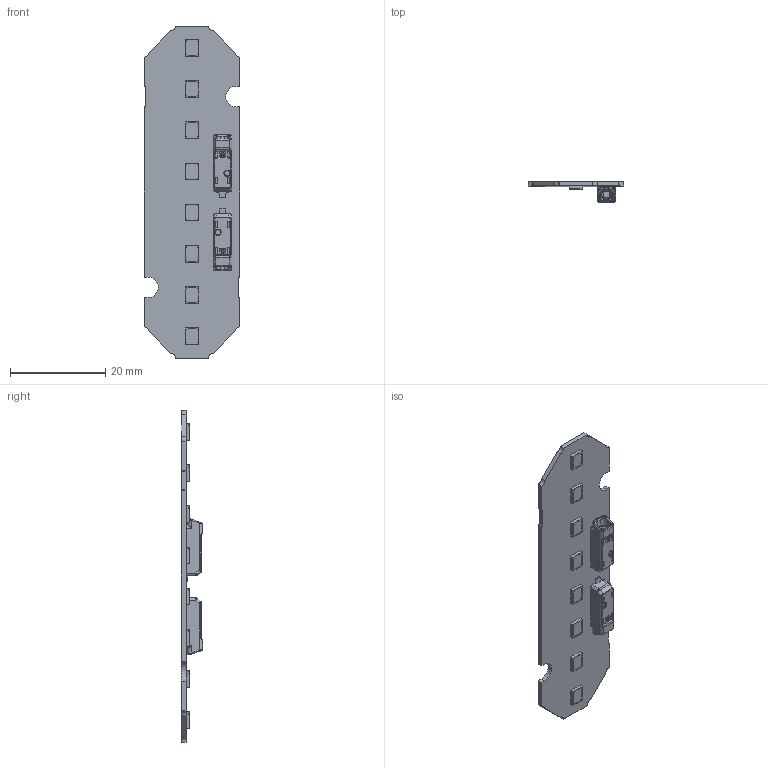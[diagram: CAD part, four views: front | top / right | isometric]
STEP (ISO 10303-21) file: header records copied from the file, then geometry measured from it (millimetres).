
FILE_DESCRIPTION(/* description */ ('Unknown'),/* implementation_level */ '2;1');
FILE_NAME(/* name */ 'LinLED 70x20mm 275lm 2C 6V sh-000 2022-04-06',/* time_stamp */ '2022-04-06T08:33:15+02:00',/* author */ ('Unknown'),/* organization */ ('Unknown'),/* preprocessor_version */ 'ST-DEVELOPER v16.7',/* originating_system */ 'Solid Edge',/* authorisation */ 'Unknown');
FILE_SCHEMA (('AUTOMOTIVE_DESIGN {1 0 10303 214 3 1 1}'));
Length unit declared in the file: millimetre
Products named in the file (1): LinLED 70x20mm 275lm 2C 6V sh-000 2022-04-06
Bounding box: 20 x 4.45 x 69.6 mm (x, y, z)
Volume: 1571.7 mm3; surface area: 3213 mm2
Topology: 1 solids, 1 shells, 634 faces, 1642 edges, 1026 vertices
Faces by surface type: plane 334, cylinder 140, bspline 104, cone 30, sphere 16, torus 10
Entity records: 26384 total; most frequent: CARTESIAN_POINT 7557, ORIENTED_EDGE 3236, DIRECTION 2560, EDGE_CURVE 1618, VERTEX_POINT 1020, LINE 982, VECTOR 982, AXIS2_PLACEMENT_3D 789
